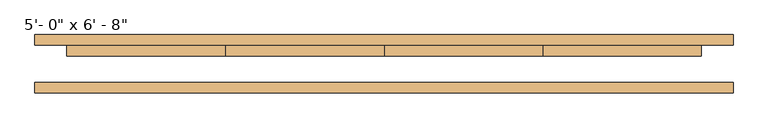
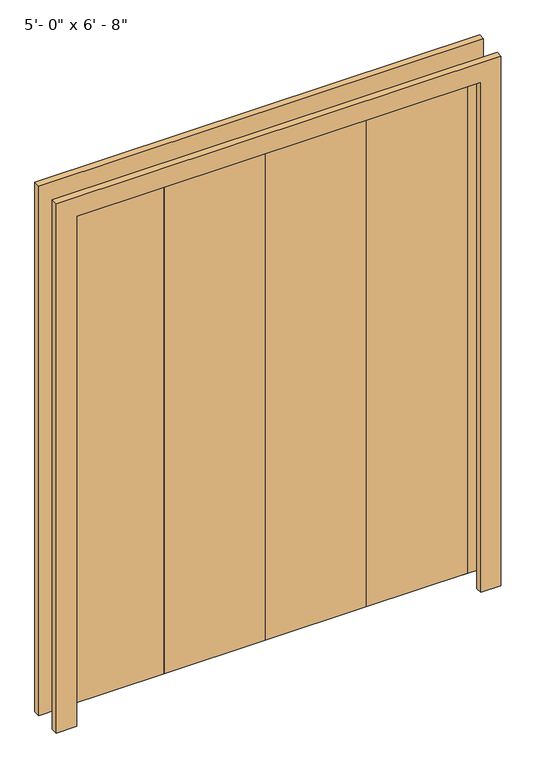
"""IFC4 building model written with IfcOpenShell, lengths in millimetres: door geometry."""

from ifc_helpers import new_model, si_unit, frame, origin, place, context, project, spatial, polyline, outline, extrude, source, transform, mapped, element, save


def door_5b7037ea(model_context):
    return source(origin(), model_context, "Body", "SweptSolid", [
        extrude(outline(polyline([(2032.0, -762.0), (2032.0, 762.0), (0.0, 762.0), (0.0, 838.2), (2108.2, 838.2), (2108.2, -838.2), (0.0, -838.2), (0.0, -762.0), (2032.0, -762.0)])), frame((0.0, -85.8124703, 0.0), z_axis=(0.0, 1.0, 0.0), x_axis=(0.0, 0.0, 1.0)), (0.0, 0.0, 1.0), 25.4),
        extrude(outline(polyline([(2032.0, -762.0), (2032.0, 762.0), (0.0, 762.0), (0.0, 838.2), (2108.2, 838.2), (2108.2, -838.2), (0.0, -838.2), (0.0, -762.0), (2032.0, -762.0)])), frame((0.0, 28.4875297, 0.0), z_axis=(0.0, 1.0, 0.0), x_axis=(0.0, 0.0, 1.0)), (0.0, 0.0, 1.0), 25.4),
        extrude(outline(polyline([(-762.0, 28.4875297), (-381.0, 28.4875297), (-381.0, 3.0875297), (-762.0, 3.0875297), (-762.0, 28.4875297)])), frame((0.0, 0.0, 22.225), z_axis=(0.0, 0.0, 1.0), x_axis=(1.0, 0.0, 0.0)), (0.0, 0.0, 1.0), 1990.725),
        extrude(outline(polyline([(-381.0, 28.4875297), (0.0, 28.4875297), (0.0, 3.0875297), (-381.0, 3.0875297), (-381.0, 28.4875297)])), frame((0.0, 0.0, 22.225), z_axis=(0.0, 0.0, 1.0), x_axis=(1.0, 0.0, 0.0)), (0.0, 0.0, 1.0), 1990.725),
        extrude(outline(polyline([(0.0, 28.4875297), (381.0, 28.4875297), (381.0, 3.0875297), (0.0, 3.0875297), (0.0, 28.4875297)])), frame((0.0, 0.0, 22.225), z_axis=(0.0, 0.0, 1.0), x_axis=(1.0, 0.0, 0.0)), (0.0, 0.0, 1.0), 1990.725),
        extrude(outline(polyline([(381.0, 28.4875297), (762.0, 28.4875297), (762.0, 3.0875297), (381.0, 3.0875297), (381.0, 28.4875297)])), frame((0.0, 0.0, 22.225), z_axis=(0.0, 0.0, 1.0), x_axis=(1.0, 0.0, 0.0)), (0.0, 0.0, 1.0), 1990.725),
    ])


if __name__ == "__main__":
    model = new_model("IFC4")
    model_context = context("Model", 3, world=origin())
    ifc_project = project(units=[si_unit("LENGTHUNIT", "METRE", prefix="MILLI")], contexts=[model_context])
    site = spatial("IfcSite", under=ifc_project)
    building = spatial("IfcBuilding", under=site)
    placement = place(None, origin())
    door_shape = door_5b7037ea(model_context)
    element("IfcDoor", 1, ObjectType="Door-Bifold 4-Panel Flush SlimFold_Dunbarton : 5'- 0\" x 6' - 8\"", at=placement, inside=building, context=model_context, shape_type="MappedRepresentation", body=[
        mapped(door_shape, transform((0.0, 0.0, 0.0), x_axis=(1.0, 0.0, 0.0), y_axis=(0.0, 1.0, 0.0), z_axis=(0.0, 0.0, 1.0))),
    ])
    save(model, "model.ifc")
